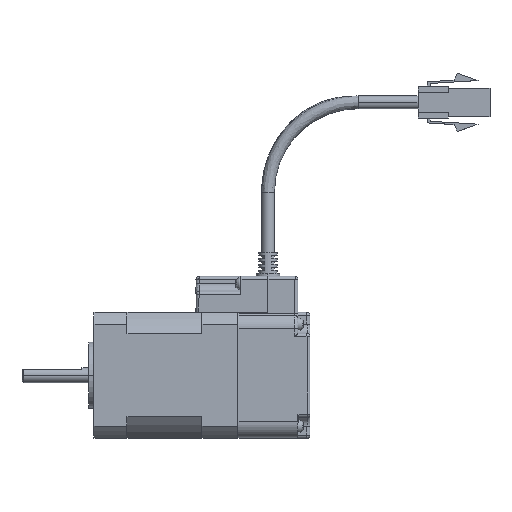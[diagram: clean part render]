
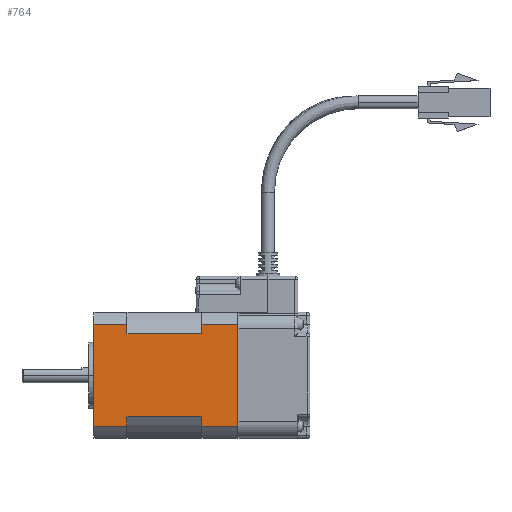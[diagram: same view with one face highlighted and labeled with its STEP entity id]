
A CAD part, top view. The second image highlights one B-rep face of the part: STEP entity #764.
In plain terms, the highlighted planar face has unit normal (0, 0, 1) as drawn and (1, 0, 0) by its records, which use the part's own axes.
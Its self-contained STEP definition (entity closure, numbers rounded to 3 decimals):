
#50 = ORIENTED_EDGE ( 'NONE', *, *, #8868, .F. ) ;
#74 = CARTESIAN_POINT ( 'NONE',  ( 42., 4.029, 37. ) ) ;
#367 = EDGE_CURVE ( 'NONE', #21124, #695, #15012, .T. ) ;
#428 = EDGE_CURVE ( 'NONE', #7074, #21124, #8701, .T. ) ;
#517 = CARTESIAN_POINT ( 'NONE',  ( 42., 34.766, 12. ) ) ;
#552 = VERTEX_POINT ( 'NONE', #19603 ) ;
#695 = VERTEX_POINT ( 'NONE', #16148 ) ;
#764 = ADVANCED_FACE ( 'NONE', ( #7656 ), #14507, .F. ) ;
#1248 = DIRECTION ( 'NONE',  ( 0., 0., -1. ) ) ;
#1321 = DIRECTION ( 'NONE',  ( 0., 1., 0. ) ) ;
#1629 = CARTESIAN_POINT ( 'NONE',  ( 42., 4.029, 48. ) ) ;
#2108 = ORIENTED_EDGE ( 'NONE', *, *, #12525, .F. ) ;
#2174 = LINE ( 'NONE', #15707, #18977 ) ;
#2244 = VERTEX_POINT ( 'NONE', #22463 ) ;
#3095 = CARTESIAN_POINT ( 'NONE',  ( 42., 4.029, 37. ) ) ;
#3296 = ORIENTED_EDGE ( 'NONE', *, *, #12832, .F. ) ;
#3532 = EDGE_CURVE ( 'NONE', #2244, #5856, #5477, .T. ) ;
#3704 = LINE ( 'NONE', #1629, #21530 ) ;
#4347 = LINE ( 'NONE', #18257, #13583 ) ;
#4490 = CARTESIAN_POINT ( 'NONE',  ( 42., 4.029, 0. ) ) ;
#4623 = VERTEX_POINT ( 'NONE', #517 ) ;
#4668 = CARTESIAN_POINT ( 'NONE',  ( 42., 4.029, 48. ) ) ;
#5037 = LINE ( 'NONE', #6113, #18329 ) ;
#5257 = CARTESIAN_POINT ( 'NONE',  ( 42., 4.029, 12. ) ) ;
#5453 = ORIENTED_EDGE ( 'NONE', *, *, #17517, .T. ) ;
#5477 = LINE ( 'NONE', #13922, #10057 ) ;
#5768 = DIRECTION ( 'NONE',  ( 0., 0., -1. ) ) ;
#5856 = VERTEX_POINT ( 'NONE', #9884 ) ;
#6113 = CARTESIAN_POINT ( 'NONE',  ( 42., 4.029, 12. ) ) ;
#6278 = EDGE_CURVE ( 'NONE', #4623, #14132, #20092, .T. ) ;
#6647 = DIRECTION ( 'NONE',  ( 0., 1., 0. ) ) ;
#6772 = CARTESIAN_POINT ( 'NONE',  ( 42., 4.029, 12. ) ) ;
#6798 = DIRECTION ( 'NONE',  ( 0., 1., 0. ) ) ;
#7074 = VERTEX_POINT ( 'NONE', #5257 ) ;
#7608 = ORIENTED_EDGE ( 'NONE', *, *, #3532, .F. ) ;
#7656 = FACE_OUTER_BOUND ( 'NONE', #18355, .T. ) ;
#7735 = CARTESIAN_POINT ( 'NONE',  ( 42., 34.766, 12. ) ) ;
#8701 = LINE ( 'NONE', #22491, #13337 ) ;
#8795 = ORIENTED_EDGE ( 'NONE', *, *, #20193, .T. ) ;
#8868 = EDGE_CURVE ( 'NONE', #552, #17956, #4347, .T. ) ;
#8937 = LINE ( 'NONE', #3095, #13034 ) ;
#9019 = EDGE_CURVE ( 'NONE', #14132, #695, #2174, .T. ) ;
#9715 = EDGE_CURVE ( 'NONE', #18399, #4623, #22138, .T. ) ;
#9761 = VECTOR ( 'NONE', #6647, 1000. ) ;
#9884 = CARTESIAN_POINT ( 'NONE',  ( 42., 37.971, 37. ) ) ;
#10057 = VECTOR ( 'NONE', #13254, 1000. ) ;
#10480 = DIRECTION ( 'NONE',  ( 0., 1., 0. ) ) ;
#11761 = CARTESIAN_POINT ( 'NONE',  ( 42., 4.029, 37. ) ) ;
#11801 = CARTESIAN_POINT ( 'NONE',  ( 42., 4.029, 0. ) ) ;
#12000 = DIRECTION ( 'NONE',  ( 0., 1., 0. ) ) ;
#12525 = EDGE_CURVE ( 'NONE', #7074, #552, #5037, .T. ) ;
#12832 = EDGE_CURVE ( 'NONE', #21651, #2244, #3704, .T. ) ;
#13034 = VECTOR ( 'NONE', #1321, 1000. ) ;
#13065 = LINE ( 'NONE', #74, #18211 ) ;
#13131 = CARTESIAN_POINT ( 'NONE',  ( 42., 34.766, 37. ) ) ;
#13254 = DIRECTION ( 'NONE',  ( 0., 0., -1. ) ) ;
#13337 = VECTOR ( 'NONE', #1248, 1000. ) ;
#13539 = VECTOR ( 'NONE', #5768, 1000. ) ;
#13583 = VECTOR ( 'NONE', #18198, 1000. ) ;
#13922 = CARTESIAN_POINT ( 'NONE',  ( 42., 37.971, 48. ) ) ;
#14132 = VERTEX_POINT ( 'NONE', #19316 ) ;
#14369 = DIRECTION ( 'NONE',  ( 0., 0., 1. ) ) ;
#14389 = DIRECTION ( 'NONE',  ( -1., 0., 0. ) ) ;
#14478 = CARTESIAN_POINT ( 'NONE',  ( 42., 4.029, 48. ) ) ;
#14507 = PLANE ( 'NONE',  #18726 ) ;
#15012 = LINE ( 'NONE', #4490, #9761 ) ;
#15013 = CARTESIAN_POINT ( 'NONE',  ( 42., 7.234, 37. ) ) ;
#15478 = CARTESIAN_POINT ( 'NONE',  ( 42., 4.029, 48. ) ) ;
#15647 = DIRECTION ( 'NONE',  ( 0., 0., -1. ) ) ;
#15707 = CARTESIAN_POINT ( 'NONE',  ( 42., 37.971, 48. ) ) ;
#16119 = VECTOR ( 'NONE', #6798, 1000. ) ;
#16148 = CARTESIAN_POINT ( 'NONE',  ( 42., 37.971, 0. ) ) ;
#16250 = ORIENTED_EDGE ( 'NONE', *, *, #428, .T. ) ;
#16388 = VERTEX_POINT ( 'NONE', #11761 ) ;
#16605 = ORIENTED_EDGE ( 'NONE', *, *, #6278, .F. ) ;
#17218 = ORIENTED_EDGE ( 'NONE', *, *, #367, .T. ) ;
#17517 = EDGE_CURVE ( 'NONE', #21651, #16388, #20829, .T. ) ;
#17888 = ORIENTED_EDGE ( 'NONE', *, *, #9019, .F. ) ;
#17956 = VERTEX_POINT ( 'NONE', #15013 ) ;
#18198 = DIRECTION ( 'NONE',  ( 0., 0., 1. ) ) ;
#18211 = VECTOR ( 'NONE', #10480, 1000. ) ;
#18257 = CARTESIAN_POINT ( 'NONE',  ( 42., 7.234, 12. ) ) ;
#18329 = VECTOR ( 'NONE', #21586, 1000. ) ;
#18355 = EDGE_LOOP ( 'NONE', ( #2108, #16250, #17218, #17888, #16605, #19839, #8795, #7608, #3296, #5453, #20291, #50 ) ) ;
#18399 = VERTEX_POINT ( 'NONE', #13131 ) ;
#18726 = AXIS2_PLACEMENT_3D ( 'NONE', #14478, #14389, #14369 ) ;
#18912 = DIRECTION ( 'NONE',  ( 0., 0., -1. ) ) ;
#18977 = VECTOR ( 'NONE', #15647, 1000. ) ;
#19316 = CARTESIAN_POINT ( 'NONE',  ( 42., 37.971, 12. ) ) ;
#19603 = CARTESIAN_POINT ( 'NONE',  ( 42., 7.234, 12. ) ) ;
#19761 = EDGE_CURVE ( 'NONE', #16388, #17956, #13065, .T. ) ;
#19839 = ORIENTED_EDGE ( 'NONE', *, *, #9715, .F. ) ;
#20092 = LINE ( 'NONE', #6772, #16119 ) ;
#20193 = EDGE_CURVE ( 'NONE', #18399, #5856, #8937, .T. ) ;
#20285 = VECTOR ( 'NONE', #18912, 1000. ) ;
#20291 = ORIENTED_EDGE ( 'NONE', *, *, #19761, .T. ) ;
#20829 = LINE ( 'NONE', #15478, #20285 ) ;
#21124 = VERTEX_POINT ( 'NONE', #11801 ) ;
#21530 = VECTOR ( 'NONE', #12000, 1000. ) ;
#21586 = DIRECTION ( 'NONE',  ( 0., 1., 0. ) ) ;
#21651 = VERTEX_POINT ( 'NONE', #4668 ) ;
#22138 = LINE ( 'NONE', #7735, #13539 ) ;
#22463 = CARTESIAN_POINT ( 'NONE',  ( 42., 37.971, 48. ) ) ;
#22491 = CARTESIAN_POINT ( 'NONE',  ( 42., 4.029, 48. ) ) ;
